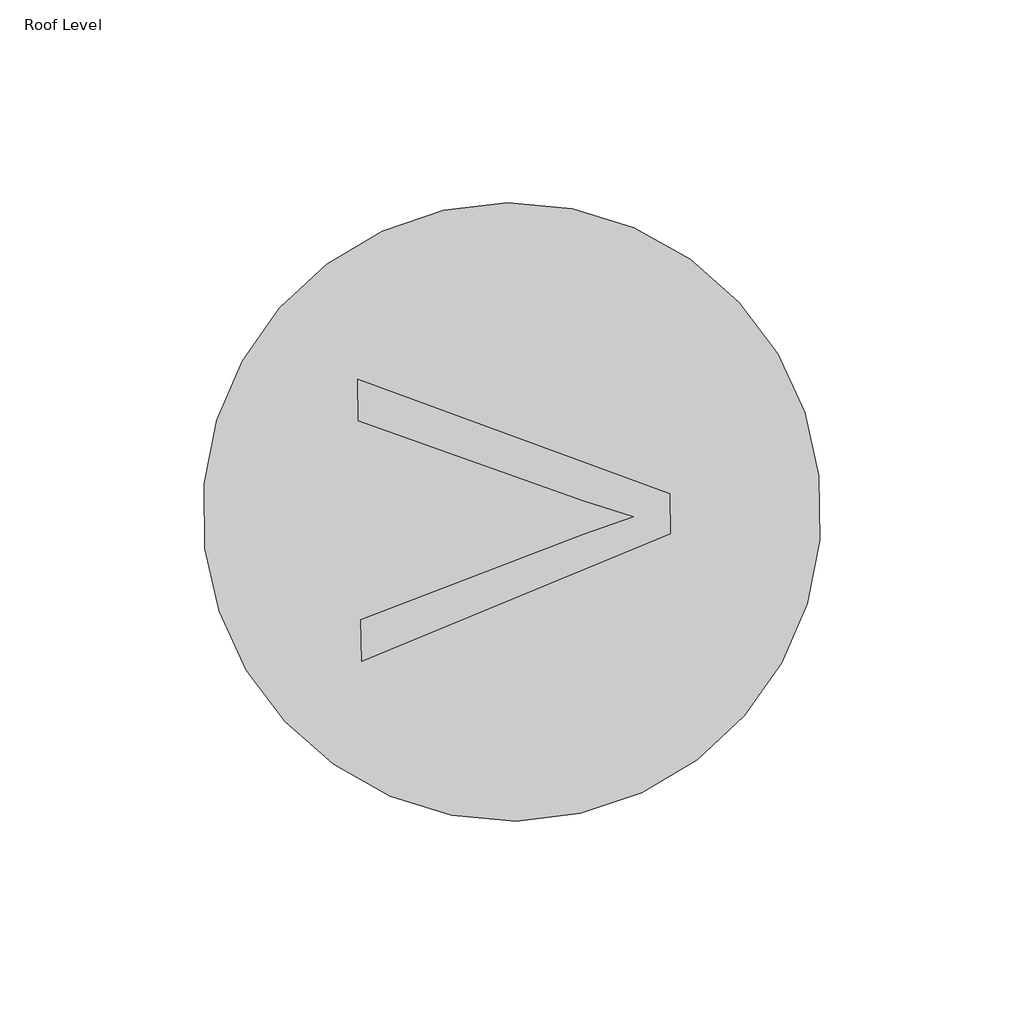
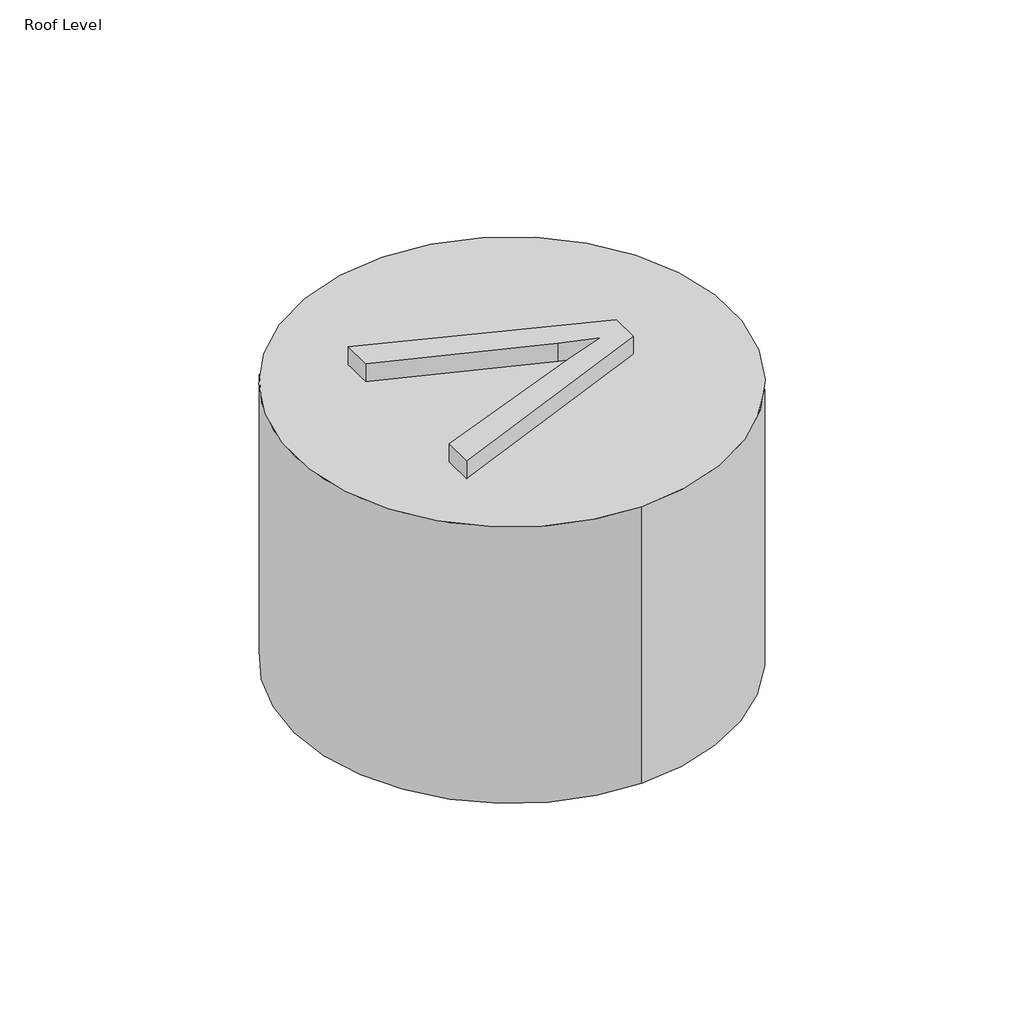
# One storey: 1 proxy.
"""IFC4 building model written with IfcOpenShell, lengths in millimetres."""

from ifc_helpers import new_model, si_unit, origin, place, context, project, spatial, transform, mapped, element, save
from components import roof_vent_roof_vent_69e8556b

model = new_model("IFC4")

# Units and contexts
model_context = context("Model", 3, world=origin())
ifc_project = project(units=[si_unit("LENGTHUNIT", "METRE", prefix="MILLI")], contexts=[model_context])

# Site, building, storey
site = spatial("IfcSite", under=ifc_project)
building = spatial("IfcBuilding", under=site)
storey = spatial("IfcBuildingStorey", under=building, Name="Roof Level", Elevation=16713.2)

# Proxy
placement = place(None, origin())
roof_vent_roof_vent_shape = roof_vent_roof_vent_69e8556b(model_context)
element("IfcBuildingElementProxy", 1, Name="Roof Vent : Roof Vent", ObjectType="Roof Vent : Roof Vent", at=placement, inside=storey, context=model_context, shape_type="MappedRepresentation", body=[
    mapped(roof_vent_roof_vent_shape, transform((2478.7333864, 923.7499204, 16713.2), x_axis=(-0.013504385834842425, 0.999908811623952, 0.0), y_axis=(-0.999908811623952, -0.013504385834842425, 0.0), z_axis=(0.0, 0.0, 1.0))),
])

save(model, "model.ifc")
